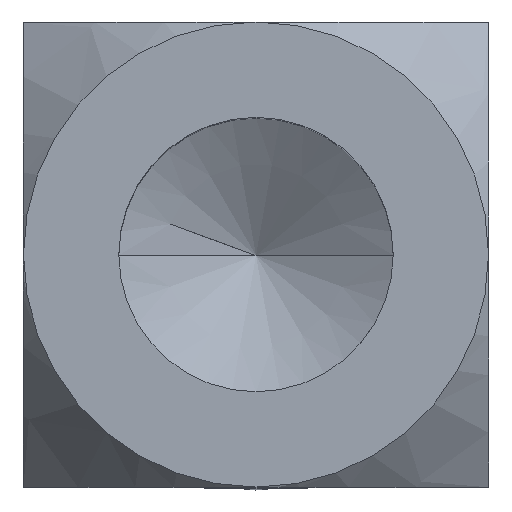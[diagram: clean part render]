
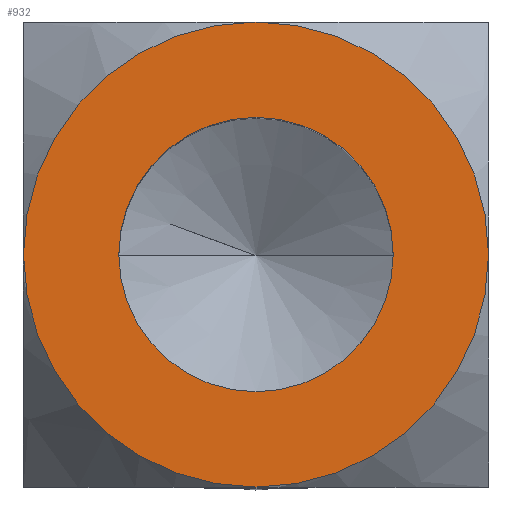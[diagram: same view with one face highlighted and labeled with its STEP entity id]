
A CAD part, top view. The second image highlights one B-rep face of the part: STEP entity #932.
In plain terms, the highlighted planar face has unit normal (0, 0, 1).
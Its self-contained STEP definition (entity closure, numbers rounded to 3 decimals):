
#1 = DIRECTION ( 'NONE',  ( 0., 0., 1. ) ) ;
#14 = CIRCLE ( 'NONE', #718, 5.9 ) ;
#21 = DIRECTION ( 'NONE',  ( 0., 0., 1. ) ) ;
#80 = CARTESIAN_POINT ( 'NONE',  ( 0., 10., 23. ) ) ;
#94 = CARTESIAN_POINT ( 'NONE',  ( -5.9, 0., 23. ) ) ;
#99 = CARTESIAN_POINT ( 'NONE',  ( 0., 0., 23. ) ) ;
#119 = DIRECTION ( 'NONE',  ( 0., 0., -1. ) ) ;
#120 = CARTESIAN_POINT ( 'NONE',  ( 0., -10., 23. ) ) ;
#145 = VERTEX_POINT ( 'NONE', #120 ) ;
#172 = VERTEX_POINT ( 'NONE', #801 ) ;
#242 = DIRECTION ( 'NONE',  ( 1., 0., 0. ) ) ;
#247 = FACE_OUTER_BOUND ( 'NONE', #329, .T. ) ;
#248 = CARTESIAN_POINT ( 'NONE',  ( 5.9, 0., 23. ) ) ;
#269 = ORIENTED_EDGE ( 'NONE', *, *, #563, .T. ) ;
#270 = AXIS2_PLACEMENT_3D ( 'NONE', #99, #913, #679 ) ;
#324 = FACE_BOUND ( 'NONE', #370, .T. ) ;
#329 = EDGE_LOOP ( 'NONE', ( #269, #764, #556, #338 ) ) ;
#330 = AXIS2_PLACEMENT_3D ( 'NONE', #919, #699, #444 ) ;
#335 = EDGE_CURVE ( 'NONE', #515, #528, #14, .T. ) ;
#338 = ORIENTED_EDGE ( 'NONE', *, *, #685, .T. ) ;
#370 = EDGE_LOOP ( 'NONE', ( #1049, #503 ) ) ;
#438 = CIRCLE ( 'NONE', #330, 10. ) ;
#444 = DIRECTION ( 'NONE',  ( -1., 0., 0. ) ) ;
#470 = AXIS2_PLACEMENT_3D ( 'NONE', #857, #119, #538 ) ;
#481 = DIRECTION ( 'NONE',  ( 1., 0., 0. ) ) ;
#485 = EDGE_CURVE ( 'NONE', #523, #497, #853, .T. ) ;
#497 = VERTEX_POINT ( 'NONE', #80 ) ;
#503 = ORIENTED_EDGE ( 'NONE', *, *, #335, .T. ) ;
#515 = VERTEX_POINT ( 'NONE', #94 ) ;
#516 = AXIS2_PLACEMENT_3D ( 'NONE', #670, #1, #591 ) ;
#523 = VERTEX_POINT ( 'NONE', #666 ) ;
#528 = VERTEX_POINT ( 'NONE', #248 ) ;
#538 = DIRECTION ( 'NONE',  ( 1., 0., 0. ) ) ;
#553 = AXIS2_PLACEMENT_3D ( 'NONE', #656, #972, #242 ) ;
#556 = ORIENTED_EDGE ( 'NONE', *, *, #581, .T. ) ;
#563 = EDGE_CURVE ( 'NONE', #145, #523, #1022, .T. ) ;
#581 = EDGE_CURVE ( 'NONE', #497, #172, #886, .T. ) ;
#591 = DIRECTION ( 'NONE',  ( -1., 0., 0. ) ) ;
#656 = CARTESIAN_POINT ( 'NONE',  ( -10.12, -10.12, 23. ) ) ;
#666 = CARTESIAN_POINT ( 'NONE',  ( 10., 0., 23. ) ) ;
#670 = CARTESIAN_POINT ( 'NONE',  ( 0., 0., 23. ) ) ;
#679 = DIRECTION ( 'NONE',  ( -1., 0., 0. ) ) ;
#685 = EDGE_CURVE ( 'NONE', #172, #145, #438, .T. ) ;
#699 = DIRECTION ( 'NONE',  ( 0., 0., 1. ) ) ;
#711 = EDGE_CURVE ( 'NONE', #528, #515, #874, .T. ) ;
#718 = AXIS2_PLACEMENT_3D ( 'NONE', #881, #943, #481 ) ;
#764 = ORIENTED_EDGE ( 'NONE', *, *, #485, .T. ) ;
#801 = CARTESIAN_POINT ( 'NONE',  ( -10., 0., 23. ) ) ;
#853 = CIRCLE ( 'NONE', #270, 10. ) ;
#857 = CARTESIAN_POINT ( 'NONE',  ( 0., 0., 23. ) ) ;
#874 = CIRCLE ( 'NONE', #470, 5.9 ) ;
#881 = CARTESIAN_POINT ( 'NONE',  ( 0., 0., 23. ) ) ;
#886 = CIRCLE ( 'NONE', #516, 10. ) ;
#913 = DIRECTION ( 'NONE',  ( 0., 0., 1. ) ) ;
#919 = CARTESIAN_POINT ( 'NONE',  ( 0., 0., 23. ) ) ;
#932 = ADVANCED_FACE ( 'NONE', ( #324, #247 ), #994, .T. ) ;
#943 = DIRECTION ( 'NONE',  ( 0., 0., -1. ) ) ;
#969 = AXIS2_PLACEMENT_3D ( 'NONE', #979, #21, #983 ) ;
#972 = DIRECTION ( 'NONE',  ( 0., 0., 1. ) ) ;
#979 = CARTESIAN_POINT ( 'NONE',  ( 0., 0., 23. ) ) ;
#983 = DIRECTION ( 'NONE',  ( -1., 0., 0. ) ) ;
#994 = PLANE ( 'NONE',  #553 ) ;
#1022 = CIRCLE ( 'NONE', #969, 10. ) ;
#1049 = ORIENTED_EDGE ( 'NONE', *, *, #711, .T. ) ;
